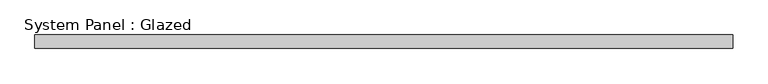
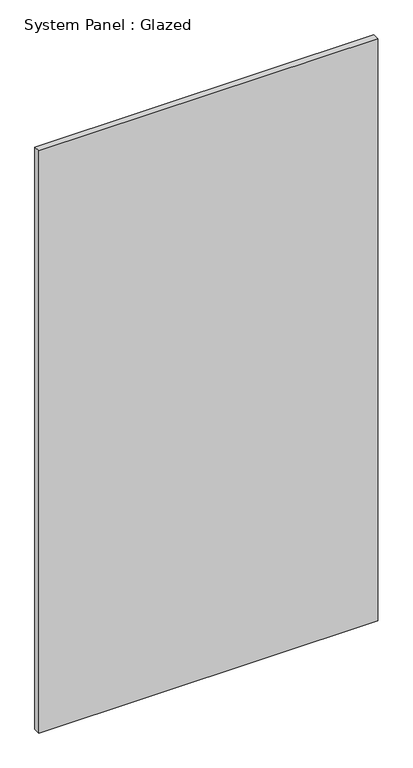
"""IFC4 building model written with IfcOpenShell, lengths in millimetres: plate geometry, System Panel : Glazed."""

from ifc_helpers import new_model, si_unit, origin, origin_with_axes, place, context, project, spatial, polyline, outline, extrude, source, transform, mapped, element, save


def system_panel_glazed_0babc747(model_context):
    return source(origin(), model_context, "Body", "SweptSolid", [
        extrude(outline(polyline([(654.05, 19.05), (-654.05, 19.05), (-654.05, 44.45), (654.05, 44.45), (654.05, 19.05)])), origin_with_axes(), (0.0, 0.0, 1.0), 2374.9),
    ])


if __name__ == "__main__":
    model = new_model("IFC4")
    model_context = context("Model", 3, world=origin())
    ifc_project = project(units=[si_unit("LENGTHUNIT", "METRE", prefix="MILLI")], contexts=[model_context])
    site = spatial("IfcSite", under=ifc_project)
    building = spatial("IfcBuilding", under=site)
    placement = place(None, origin())
    system_panel_glazed_shape = system_panel_glazed_0babc747(model_context)
    element("IfcPlate", 1, ObjectType="System Panel : Glazed", at=placement, inside=building, context=model_context, shape_type="MappedRepresentation", body=[
        mapped(system_panel_glazed_shape, transform((0.0, 0.0, 0.0), x_axis=(1.0, 0.0, 0.0), y_axis=(0.0, 1.0, 0.0), z_axis=(0.0, 0.0, 1.0))),
    ])
    save(model, "model.ifc")
